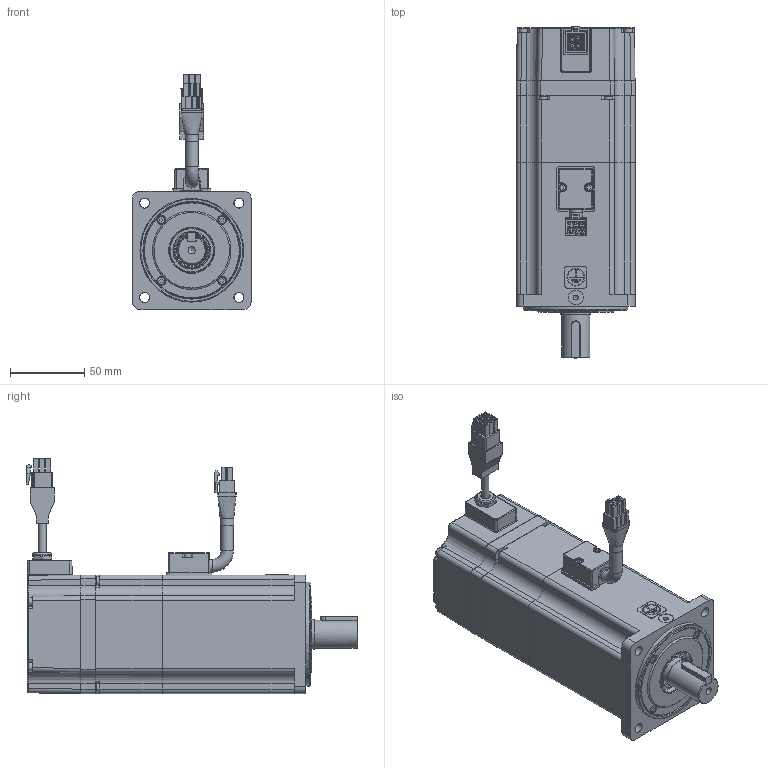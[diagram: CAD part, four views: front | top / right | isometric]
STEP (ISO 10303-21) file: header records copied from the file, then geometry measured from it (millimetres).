
FILE_DESCRIPTION( ( 'Unknown' ), '1' );
FILE_NAME( 'X:/05_Progetto TCE/010-TCE motor drawings/TCE80/vuoti/TCE80 3B XX 3 A1 1 D0.stp', 'Unknown', ( 'Unknown' ), ( 'Unknown' ), 'PSStep 17.0.49', 'Unknown', ' ' );
FILE_SCHEMA( ( 'AUTOMOTIVE_DESIGN { 1 0 10303 214 1 1 1 1 }' ) );
Length unit declared in the file: millimetre
Products named in the file (57): 003108015152_curva; 003303000376; 005453000452_D8,5; 003108020178_dritto; 005603001018; 003303000021; 005711000200; 005711000200-oa0; U5120004_vuoto; 001799000503; 005911000598; 003120002505; Assem1; 005204000002; 005123000690; 003155000302; 005911000004; 001107000619; 003251022002; 003103001504; 005119001502; 005204000001; 005204000003; 005008000740-oa1; 005008000690-oa2; 005008000690-oa3; 005008000690-oa4; 005123000800; 005911000493; 005113000492; 005911000182; 005008000908-oa5; 005911003621; 003003050011; 003155000303
Assembly tree (69 placements, depth 4):
  Assem1
    005204000002
    005123000690
    005123000690
    005123000690
    005123000690
    005123000690
    005123000690
    005123000690
    005123000690
    003155000302
    005911000004  x4
    001107000619
    003251022002
    003103001504
    005119001502
    005119001502
    005204000001
    005204000003
    005008000740-oa1
    005008000690-oa2
    005008000690-oa3
    005008000690-oa4
    005123000800
    005123000800
    005123000800
    005123000800
    005123000800
    005123000800
    005123000800
    005123000800
    005123000800
    005911000493  x4
    005113000492
    005911000182  x4
    005008000908-oa5
    005911003621  x4
    003003050011
    003155000303
    003108020178_dritto
      005603001018
      003303000021
      005711000200
      005711000200-oa0
      003108020178_dritto
      003108020178_dritto
    U5120004_vuoto
      001799000503
      005911000598  x2
      003120002505
      003120002505
      003108015152_curva
        003303000376
        005453000452_D8,5
        003108015152_curva
        003108015152_curva
        003108015152_curva
Bounding box: 80.3 x 223.9 x 158.7 mm (x, y, z)
Volume: 447017.5 mm3; surface area: 233262.3 mm2
Topology: 66 solids, 66 shells, 2340 faces, 5795 edges, 3713 vertices
Faces by surface type: plane 1386, cylinder 492, torus 131, cone 122, bspline 111, sphere 61, extrusion 37
Full cylindrical faces by diameter (mm): 2.013 x3, 2.459 x37, 2.5 x2, 2.6 x9, 2.7 x2, 3 x16, 3.242 x4, 3.5 x20, 4.7 x3, 4.917 x2, 5 x1, 5.2 x1, 5.3 x2, 5.5 x17, 7.2 x1, 8 x5, 8.1 x1, 8.5 x2, 8.51 x1, 9.11 x1, 10 x3, 10.3 x2, 10.647 x1, 11 x1, 12 x2, 12.7 x1, 14.98 x1, 15 x2, 17 x1, 19 x2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
Entity records: 88332 total; most frequent: CARTESIAN_POINT 21575, DIRECTION 9991, ORIENTED_EDGE 9764, EDGE_CURVE 4882, AXIS2_PLACEMENT_3D 3374, VERTEX_POINT 3366, VECTOR 3243, LINE 3206
